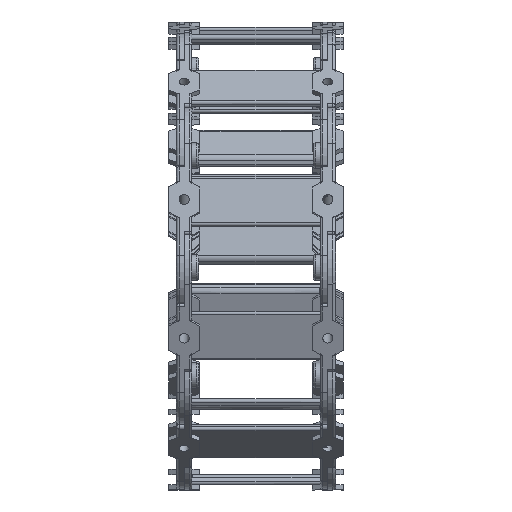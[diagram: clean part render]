
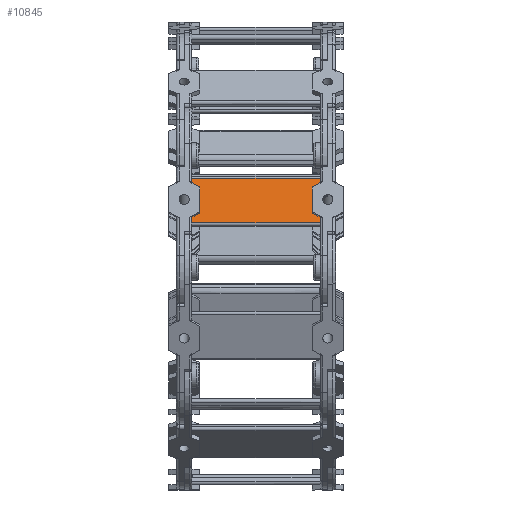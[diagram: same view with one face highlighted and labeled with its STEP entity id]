
A CAD part, front view. The second image highlights one B-rep face of the part: STEP entity #10845.
In plain terms, the highlighted planar face has unit normal (0, -0.967, 0.255) as drawn and (0, 0, 1) by its records, which use the part's own axes.
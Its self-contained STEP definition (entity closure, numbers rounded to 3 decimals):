
#10352=CARTESIAN_POINT('',(4.,-114.6,2.));
#10353=VERTEX_POINT('',#10352);
#10360=CARTESIAN_POINT('',(4.,-120.6,2.));
#10361=VERTEX_POINT('',#10360);
#10362=CARTESIAN_POINT('',(4.,-120.6,2.));
#10363=DIRECTION('',(0.0,1.0,0.0));
#10364=VECTOR('',#10363,6.0);
#10365=LINE('',#10362,#10364);
#10366=EDGE_CURVE('',#10361,#10353,#10365,.T.);
#10392=CARTESIAN_POINT('',(-4.,-120.6,2.));
#10393=VERTEX_POINT('',#10392);
#10400=CARTESIAN_POINT('',(-4.,-114.6,2.));
#10401=VERTEX_POINT('',#10400);
#10402=CARTESIAN_POINT('',(-4.,-114.6,2.));
#10403=DIRECTION('',(0.0,-1.0,0.0));
#10404=VECTOR('',#10403,6.0);
#10405=LINE('',#10402,#10404);
#10406=EDGE_CURVE('',#10401,#10393,#10405,.T.);
#10430=CARTESIAN_POINT('',(0.,-120.6,2.));
#10431=DIRECTION('',(0.0,0.0,-1.0));
#10432=DIRECTION('',(-1.0,0.0,0.0));
#10433=AXIS2_PLACEMENT_3D('',#10430,#10431,#10432);
#10434=CIRCLE('',#10433,4.0);
#10435=EDGE_CURVE('',#10393,#10361,#10434,.T.);
#10542=CARTESIAN_POINT('',(-18.,-114.6,2.));
#10543=VERTEX_POINT('',#10542);
#10544=CARTESIAN_POINT('',(-18.,-114.6,2.));
#10545=DIRECTION('',(1.0,0.0,0.0));
#10546=VECTOR('',#10545,14.);
#10547=LINE('',#10544,#10546);
#10548=EDGE_CURVE('',#10543,#10401,#10547,.T.);
#10591=CARTESIAN_POINT('',(18.,-114.6,2.));
#10592=VERTEX_POINT('',#10591);
#10600=CARTESIAN_POINT('',(4.,-114.6,2.));
#10601=DIRECTION('',(1.0,0.0,0.0));
#10602=VECTOR('',#10601,14.);
#10603=LINE('',#10600,#10602);
#10604=EDGE_CURVE('',#10353,#10592,#10603,.T.);
#10798=CARTESIAN_POINT('',(-18.0,-14.6,2.));
#10799=VERTEX_POINT('',#10798);
#10809=CARTESIAN_POINT('',(-18.,-114.6,2.));
#10810=DIRECTION('',(0.0,1.0,0.0));
#10811=VECTOR('',#10810,100.0);
#10812=LINE('',#10809,#10811);
#10813=EDGE_CURVE('',#10543,#10799,#10812,.T.);
#10818=CARTESIAN_POINT('',(18.0,0.0,2.));
#10819=DIRECTION('',(0.0,0.0,1.0));
#10820=DIRECTION('',(1.0,0.0,0.0));
#10821=AXIS2_PLACEMENT_3D('',#10818,#10819,#10820);
#10822=PLANE('',#10821);
#10823=CARTESIAN_POINT('',(18.0,-14.6,2.));
#10824=VERTEX_POINT('',#10823);
#10825=CARTESIAN_POINT('',(18.0,-14.6,2.));
#10826=DIRECTION('',(-1.0,0.0,0.0));
#10827=VECTOR('',#10826,36.0);
#10828=LINE('',#10825,#10827);
#10829=EDGE_CURVE('',#10824,#10799,#10828,.T.);
#10830=ORIENTED_EDGE('',*,*,#10829,.T.);
#10831=ORIENTED_EDGE('',*,*,#10813,.F.);
#10832=ORIENTED_EDGE('',*,*,#10548,.T.);
#10833=ORIENTED_EDGE('',*,*,#10406,.T.);
#10834=ORIENTED_EDGE('',*,*,#10435,.T.);
#10835=ORIENTED_EDGE('',*,*,#10366,.T.);
#10836=ORIENTED_EDGE('',*,*,#10604,.T.);
#10837=CARTESIAN_POINT('',(18.,-114.6,2.));
#10838=DIRECTION('',(0.0,1.0,0.0));
#10839=VECTOR('',#10838,100.);
#10840=LINE('',#10837,#10839);
#10841=EDGE_CURVE('',#10592,#10824,#10840,.T.);
#10842=ORIENTED_EDGE('',*,*,#10841,.T.);
#10843=EDGE_LOOP('',(#10830,#10831,#10832,#10833,#10834,#10835,#10836,#10842));
#10844=FACE_OUTER_BOUND('',#10843,.T.);
#10845=ADVANCED_FACE('',(#10844),#10822,.T.);
